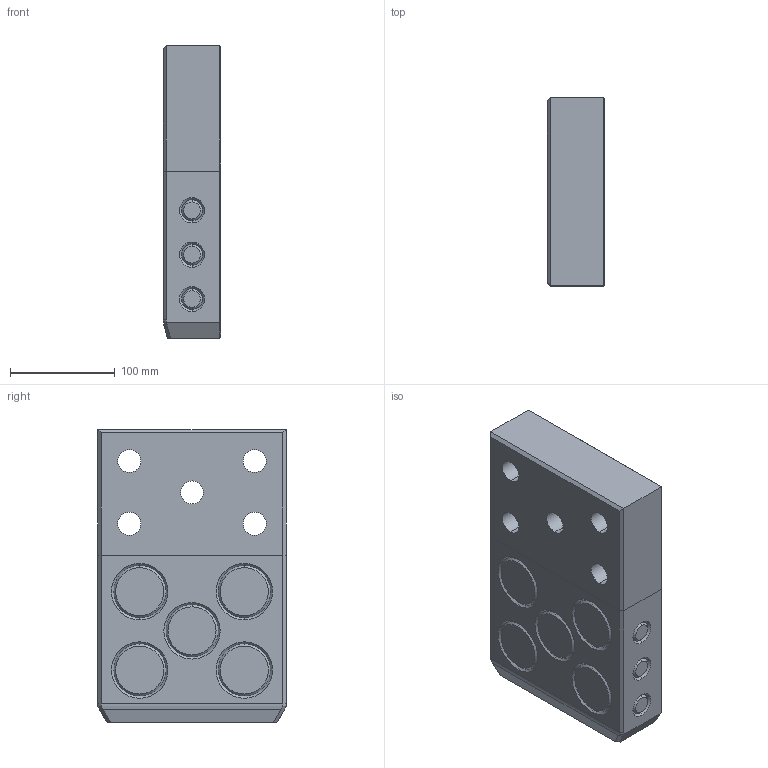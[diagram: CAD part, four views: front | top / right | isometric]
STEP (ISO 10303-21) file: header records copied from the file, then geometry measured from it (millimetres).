
FILE_DESCRIPTION((''),'2;1');
FILE_NAME('','2010-08-30T19:12:08+09:00',('misumi'),(''),'M/STEP i/f 1R2-14','CADmeister v5.1','');
FILE_SCHEMA(('AUTOMOTIVE_DESIGN'));
Length unit declared in the file: millimetre
Products named in the file (1): OGZ180-280
Bounding box: 55 x 180 x 280 mm (x, y, z)
Volume: 2596734.3 mm3; surface area: 169664.1 mm2
Topology: 1 solids, 1 shells, 113 faces, 244 edges, 150 vertices
Faces by surface type: cone 44, plane 42, cylinder 23, bspline 4
Entity records: 4054 total; most frequent: CARTESIAN_POINT 1468, DIRECTION 536, ORIENTED_EDGE 488, EDGE_CURVE 244, AXIS2_PLACEMENT_3D 208, VERTEX_POINT 150, EDGE_LOOP 140, LINE 120
